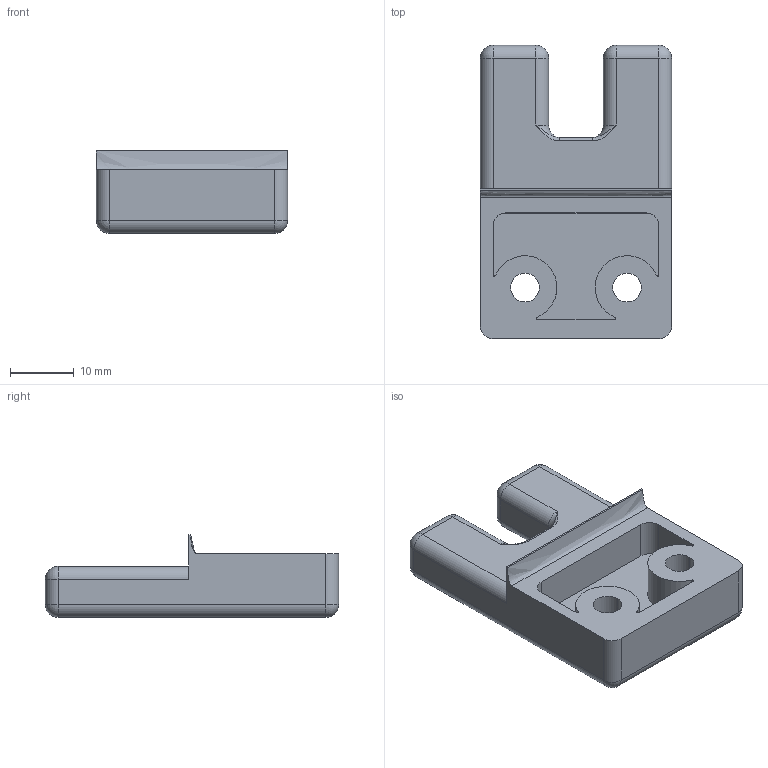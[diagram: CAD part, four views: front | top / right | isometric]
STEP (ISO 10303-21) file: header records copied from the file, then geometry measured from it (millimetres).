
FILE_DESCRIPTION (( 'STEP AP203' ), '1' );
FILE_NAME ('013.100.006.STEP', '2020-10-27T13:30:20', ( '' ), ( '' ), 'SwSTEP 2.0', 'SolidWorks 2018', '' );
FILE_SCHEMA (( 'CONFIG_CONTROL_DESIGN' ));
Length unit declared in the file: millimetre
Products named in the file (1): 013.100.006
Bounding box: 30 x 46 x 13 mm (x, y, z)
Volume: 9064.9 mm3; surface area: 4935.1 mm2
Topology: 1 solids, 1 shells, 80 faces, 197 edges, 108 vertices
Faces by surface type: cylinder 41, plane 20, sphere 10, bspline 5, torus 4
Entity records: 2579 total; most frequent: CARTESIAN_POINT 673, DIRECTION 409, ORIENTED_EDGE 366, EDGE_CURVE 183, AXIS2_PLACEMENT_3D 162, VERTEX_POINT 108, EDGE_LOOP 87, CIRCLE 86
